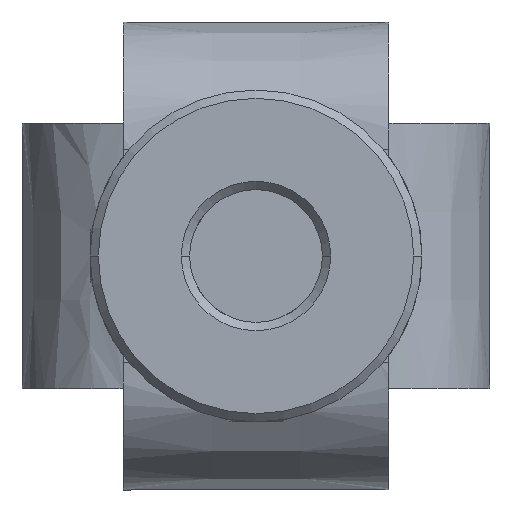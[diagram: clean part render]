
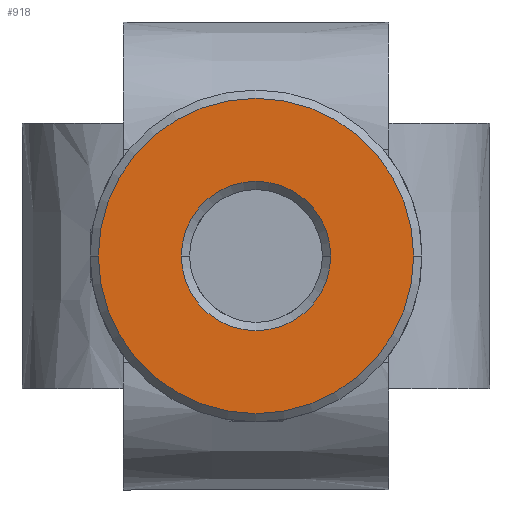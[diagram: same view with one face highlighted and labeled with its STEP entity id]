
A CAD part, front view. The second image highlights one B-rep face of the part: STEP entity #918.
In plain terms, the highlighted planar face has unit normal (0, -1, 0).
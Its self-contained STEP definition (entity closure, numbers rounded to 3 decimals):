
#47 = AXIS2_PLACEMENT_3D ( 'NONE', #6532, #2793, #331 ) ;
#122 = ORIENTED_EDGE ( 'NONE', *, *, #1274, .T. ) ;
#167 = VERTEX_POINT ( 'NONE', #7625 ) ;
#245 = EDGE_LOOP ( 'NONE', ( #122, #3017 ) ) ;
#248 = FACE_OUTER_BOUND ( 'NONE', #1897, .T. ) ;
#331 = DIRECTION ( 'NONE',  ( -1., 0., 0. ) ) ;
#344 = EDGE_CURVE ( 'NONE', #1761, #1169, #4045, .T. ) ;
#346 = CARTESIAN_POINT ( 'NONE',  ( 9.5, -35.24, 0. ) ) ;
#918 = ADVANCED_FACE ( 'NONE', ( #6185, #248 ), #2871, .T. ) ;
#1169 = VERTEX_POINT ( 'NONE', #2641 ) ;
#1274 = EDGE_CURVE ( 'NONE', #167, #4964, #6957, .T. ) ;
#1761 = VERTEX_POINT ( 'NONE', #346 ) ;
#1897 = EDGE_LOOP ( 'NONE', ( #4526, #2935 ) ) ;
#2252 = CARTESIAN_POINT ( 'NONE',  ( 4.5, -35.24, 0. ) ) ;
#2398 = EDGE_CURVE ( 'NONE', #4964, #167, #7825, .T. ) ;
#2420 = DIRECTION ( 'NONE',  ( -1., 0., 0. ) ) ;
#2428 = CIRCLE ( 'NONE', #7226, 9.5 ) ;
#2622 = CARTESIAN_POINT ( 'NONE',  ( 0., -35.24, 0. ) ) ;
#2641 = CARTESIAN_POINT ( 'NONE',  ( -9.5, -35.24, 0. ) ) ;
#2793 = DIRECTION ( 'NONE',  ( 0., -1., 0. ) ) ;
#2871 = PLANE ( 'NONE',  #4866 ) ;
#2935 = ORIENTED_EDGE ( 'NONE', *, *, #7364, .T. ) ;
#3017 = ORIENTED_EDGE ( 'NONE', *, *, #2398, .T. ) ;
#3902 = DIRECTION ( 'NONE',  ( -1., 0., 0. ) ) ;
#4045 = CIRCLE ( 'NONE', #47, 9.5 ) ;
#4402 = DIRECTION ( 'NONE',  ( -1., 0., 0. ) ) ;
#4526 = ORIENTED_EDGE ( 'NONE', *, *, #344, .T. ) ;
#4866 = AXIS2_PLACEMENT_3D ( 'NONE', #6547, #5974, #7175 ) ;
#4964 = VERTEX_POINT ( 'NONE', #2252 ) ;
#5200 = CARTESIAN_POINT ( 'NONE',  ( 0., -35.24, 0. ) ) ;
#5974 = DIRECTION ( 'NONE',  ( 0., -1., 0. ) ) ;
#6148 = CARTESIAN_POINT ( 'NONE',  ( 0., -35.24, 0. ) ) ;
#6161 = AXIS2_PLACEMENT_3D ( 'NONE', #2622, #6275, #4402 ) ;
#6185 = FACE_BOUND ( 'NONE', #245, .T. ) ;
#6227 = DIRECTION ( 'NONE',  ( 0., -1., 0. ) ) ;
#6275 = DIRECTION ( 'NONE',  ( 0., 1., 0. ) ) ;
#6430 = DIRECTION ( 'NONE',  ( 0., 1., 0. ) ) ;
#6532 = CARTESIAN_POINT ( 'NONE',  ( 0., -35.24, 0. ) ) ;
#6547 = CARTESIAN_POINT ( 'NONE',  ( 0., -35.24, 0. ) ) ;
#6943 = AXIS2_PLACEMENT_3D ( 'NONE', #5200, #6430, #3902 ) ;
#6957 = CIRCLE ( 'NONE', #6943, 4.5 ) ;
#7175 = DIRECTION ( 'NONE',  ( -1., 0., 0. ) ) ;
#7226 = AXIS2_PLACEMENT_3D ( 'NONE', #6148, #6227, #2420 ) ;
#7364 = EDGE_CURVE ( 'NONE', #1169, #1761, #2428, .T. ) ;
#7625 = CARTESIAN_POINT ( 'NONE',  ( -4.5, -35.24, 0. ) ) ;
#7825 = CIRCLE ( 'NONE', #6161, 4.5 ) ;
